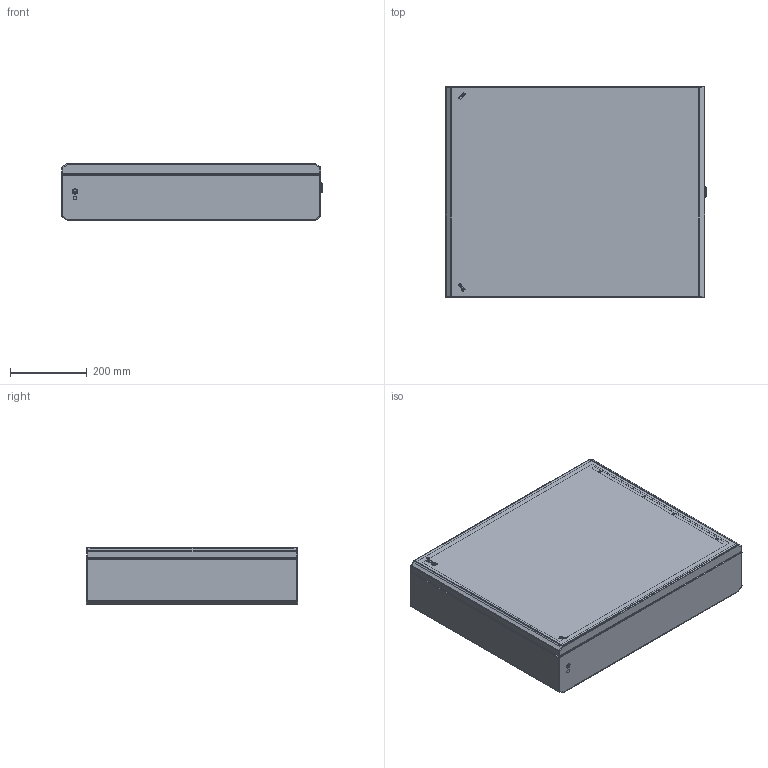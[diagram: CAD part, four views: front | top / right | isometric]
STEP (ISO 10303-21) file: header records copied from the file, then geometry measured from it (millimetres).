
FILE_DESCRIPTION (( 'STEP AP203' ), '1' );
FILE_NAME ('BK75A-COM.step', '2023-09-19T13:20:11', ( '' ), ( '' ), 'SwSTEP 2.0', 'SolidWorks 2021', '' );
FILE_SCHEMA (( 'CONFIG_CONTROL_DESIGN' ));
Length unit declared in the file: millimetre
Products named in the file (20): PRFABK75; 1000-02-RA_1^ 1000-U134_ SG215S_Assiemi Box serie BK33-BK75M; Porte Box BK33-BK75M_POBK75; 1000-24^1000-u183_ SG215S_Assiemi Box serie BK33-BK75M;  1000-U134^ SG215S_Assiemi Box serie BK33-BK75M; LOGO_ILINOX; 1000-03-PG^1000-u183_ SG215S_Assiemi Box serie BK33-BK75M; 1000-u183^ SG215S_Assiemi Box serie BK33-BK75M; 1000-156-01^1000-u183_ SG215S_Assiemi Box serie BK33-BK75M; PRM615TL316;  SG215S^Assiemi Box serie BK33-BK75M_Chiusura_BASSO; Staffa Serraggio Box BK_SSBKH550; Scarpetta Box serie BK; 1000-277-01PI^1000-u183_ SG215S_Assiemi Box serie BK33-BK75M; 1000-101-GPF_GPD_1^ 1000-U134_ SG215S_Assiemi Box serie BK33-BK75M; Guarnizione Schiumata 13x6.5_GBK75-GBK75M; Parte7^ SG215S_Assiemi Box serie BK33-BK75M; OLD-ADMT_ADMT; BK75A-COM; Fasciame FABK33- FABK75M_FABK75
Assembly tree (24 placements, depth 4):
  BK75A-COM
    Fasciame FABK33- FABK75M_FABK75
    Porte Box BK33-BK75M_POBK75
    Guarnizione Schiumata 13x6.5_GBK75-GBK75M
    Staffa Serraggio Box BK_SSBKH550
    Scarpetta Box serie BK
    PRFABK75
     SG215S^Assiemi Box serie BK33-BK75M_Chiusura_BASSO
       1000-U134^ SG215S_Assiemi Box serie BK33-BK75M
        1000-101-GPF_GPD_1^ 1000-U134_ SG215S_Assiemi Box serie BK33-BK75M
        1000-02-RA_1^ 1000-U134_ SG215S_Assiemi Box serie BK33-BK75M
      1000-u183^ SG215S_Assiemi Box serie BK33-BK75M
        1000-156-01^1000-u183_ SG215S_Assiemi Box serie BK33-BK75M
        1000-03-PG^1000-u183_ SG215S_Assiemi Box serie BK33-BK75M
        1000-24^1000-u183_ SG215S_Assiemi Box serie BK33-BK75M
        1000-277-01PI^1000-u183_ SG215S_Assiemi Box serie BK33-BK75M
      Parte7^ SG215S_Assiemi Box serie BK33-BK75M
    OLD-ADMT_ADMT  x2
    LOGO_ILINOX  x2
    PRM615TL316  x4
Bounding box: 679 x 550 x 150.1 mm (x, y, z)
Volume: 2055742.8 mm3; surface area: 2589611.5 mm2
Topology: 42 solids, 43 shells, 1077 faces, 2545 edges, 1558 vertices
Faces by surface type: plane 560, cylinder 388, sphere 42, cone 40, bspline 31, torus 16
Entity records: 32005 total; most frequent: CARTESIAN_POINT 7610, DIRECTION 4829, ORIENTED_EDGE 4439, EDGE_CURVE 2223, AXIS2_PLACEMENT_3D 1795, VERTEX_POINT 1376, LINE 1239, VECTOR 1239
